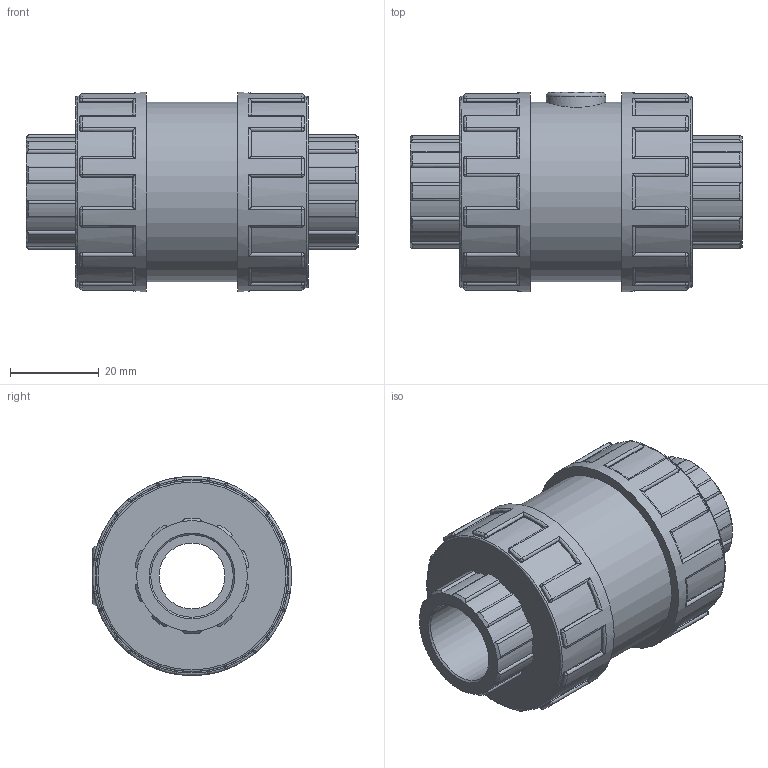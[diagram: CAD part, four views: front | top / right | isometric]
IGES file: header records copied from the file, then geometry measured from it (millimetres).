
Global section: file name: 11081005.ipt; native system: Autodesk Inventor 2015; preprocessor: unknown; author: KIM; date: 20171207.170045; units: millimetre
Bounding box: 75 x 45 x 45 mm (x, y, z)
Volume: 70932.4 mm3; surface area: 16644.4 mm2
Topology: 1 solids, 1 shells, 411 faces, 1033 edges, 630 vertices
Faces by surface type: cylinder 182, plane 105, revolution 56, sphere 48, cone 20
Full cylindrical faces by diameter (mm): 13.5 x1, 40.5 x1, 43.2 x2, 45 x2
